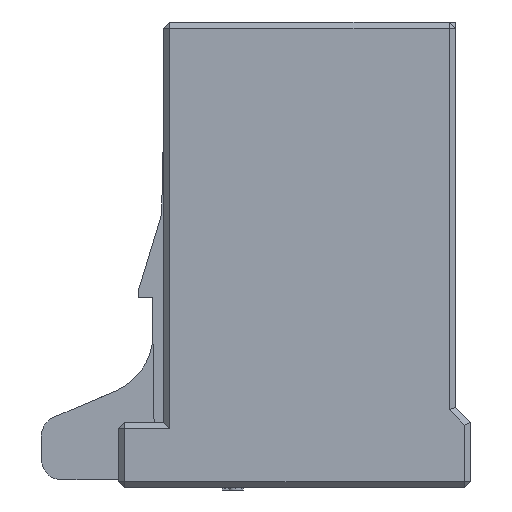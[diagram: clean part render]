
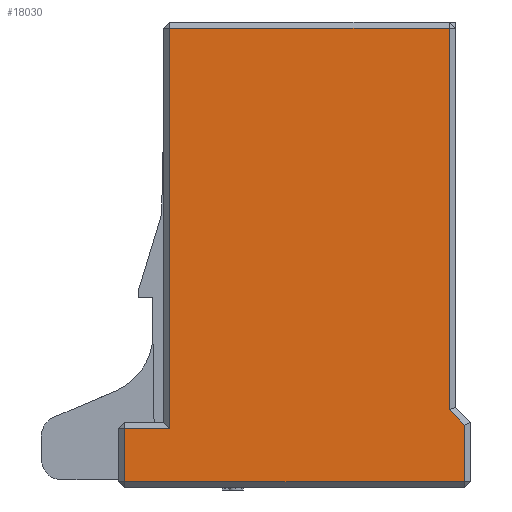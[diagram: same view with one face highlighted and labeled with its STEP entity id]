
A CAD part, left-side view. The second image highlights one B-rep face of the part: STEP entity #18030.
In plain terms, the highlighted planar face has unit normal (-1, 0, 0).
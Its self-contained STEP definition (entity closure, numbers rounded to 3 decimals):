
#49 = DIRECTION ( 'NONE',  ( 0., -1., 0. ) ) ;
#122 = CARTESIAN_POINT ( 'NONE',  ( -12.3, 13.23, 22.8 ) ) ;
#386 = CARTESIAN_POINT ( 'NONE',  ( -12.3, -2.95, 22.5 ) ) ;
#643 = DIRECTION ( 'NONE',  ( 0., 0., 1. ) ) ;
#752 = CARTESIAN_POINT ( 'NONE',  ( -12.3, 10.72, 22.5 ) ) ;
#793 = EDGE_CURVE ( 'NONE', #10009, #15207, #15567, .T. ) ;
#1613 = VECTOR ( 'NONE', #49, 1000. ) ;
#3637 = EDGE_CURVE ( 'NONE', #19935, #17852, #24794, .T. ) ;
#3777 = VECTOR ( 'NONE', #9879, 1000. ) ;
#4339 = DIRECTION ( 'NONE',  ( 0., 0., 1. ) ) ;
#5036 = CARTESIAN_POINT ( 'NONE',  ( -12.3, 10.72, 2.9 ) ) ;
#5137 = EDGE_CURVE ( 'NONE', #15207, #6318, #16424, .T. ) ;
#5686 = EDGE_CURVE ( 'NONE', #6318, #15354, #23993, .T. ) ;
#5941 = VECTOR ( 'NONE', #4339, 1000. ) ;
#5976 = CARTESIAN_POINT ( 'NONE',  ( -12.3, -2.95, 3.826 ) ) ;
#5992 = VECTOR ( 'NONE', #7149, 1000. ) ;
#6053 = DIRECTION ( 'NONE',  ( 0., 0., -1. ) ) ;
#6318 = VERTEX_POINT ( 'NONE', #5036 ) ;
#6359 = DIRECTION ( 'NONE',  ( 0., 0.707, 0.707 ) ) ;
#6379 = VECTOR ( 'NONE', #6053, 1000. ) ;
#6622 = DIRECTION ( 'NONE',  ( 1., 0., 0. ) ) ;
#6721 = EDGE_CURVE ( 'NONE', #9171, #10009, #19442, .T. ) ;
#6901 = CARTESIAN_POINT ( 'NONE',  ( -12.3, 12.93, 0.3 ) ) ;
#7149 = DIRECTION ( 'NONE',  ( 0., 1., 0. ) ) ;
#8639 = ORIENTED_EDGE ( 'NONE', *, *, #18956, .T. ) ;
#9171 = VERTEX_POINT ( 'NONE', #5976 ) ;
#9228 = LINE ( 'NONE', #26190, #9926 ) ;
#9879 = DIRECTION ( 'NONE',  ( 0., 1., 0. ) ) ;
#9926 = VECTOR ( 'NONE', #6359, 1000. ) ;
#10009 = VERTEX_POINT ( 'NONE', #386 ) ;
#10410 = CARTESIAN_POINT ( 'NONE',  ( -12.3, -3.7, 0.3 ) ) ;
#10726 = ORIENTED_EDGE ( 'NONE', *, *, #6721, .T. ) ;
#11260 = LINE ( 'NONE', #14916, #19234 ) ;
#11523 = ORIENTED_EDGE ( 'NONE', *, *, #5137, .T. ) ;
#12172 = CARTESIAN_POINT ( 'NONE',  ( -12.3, -3.7, 3.076 ) ) ;
#12558 = CARTESIAN_POINT ( 'NONE',  ( -12.3, 12.93, 2.9 ) ) ;
#13404 = PLANE ( 'NONE',  #26047 ) ;
#13585 = FACE_OUTER_BOUND ( 'NONE', #23137, .T. ) ;
#14908 = EDGE_CURVE ( 'NONE', #15354, #19935, #11260, .T. ) ;
#14916 = CARTESIAN_POINT ( 'NONE',  ( -12.3, 12.93, 22.8 ) ) ;
#15207 = VERTEX_POINT ( 'NONE', #752 ) ;
#15354 = VERTEX_POINT ( 'NONE', #12558 ) ;
#15377 = CARTESIAN_POINT ( 'NONE',  ( -12.3, -2.95, 22.8 ) ) ;
#15468 = ORIENTED_EDGE ( 'NONE', *, *, #3637, .T. ) ;
#15567 = LINE ( 'NONE', #27591, #3777 ) ;
#16424 = LINE ( 'NONE', #21309, #6379 ) ;
#17244 = DIRECTION ( 'NONE',  ( 0., 0., -1. ) ) ;
#17713 = VERTEX_POINT ( 'NONE', #12172 ) ;
#17852 = VERTEX_POINT ( 'NONE', #10410 ) ;
#18030 = ADVANCED_FACE ( 'NONE', ( #13585 ), #13404, .F. ) ;
#18111 = ORIENTED_EDGE ( 'NONE', *, *, #14908, .T. ) ;
#18956 = EDGE_CURVE ( 'NONE', #17852, #17713, #21791, .T. ) ;
#19234 = VECTOR ( 'NONE', #17244, 1000. ) ;
#19442 = LINE ( 'NONE', #15377, #5941 ) ;
#19935 = VERTEX_POINT ( 'NONE', #6901 ) ;
#20471 = CARTESIAN_POINT ( 'NONE',  ( -12.3, -3.7, 22.8 ) ) ;
#21309 = CARTESIAN_POINT ( 'NONE',  ( -12.3, 10.72, 22.8 ) ) ;
#21791 = LINE ( 'NONE', #20471, #28040 ) ;
#21888 = CARTESIAN_POINT ( 'NONE',  ( -12.3, 13.23, 0.3 ) ) ;
#22741 = EDGE_CURVE ( 'NONE', #17713, #9171, #9228, .T. ) ;
#23137 = EDGE_LOOP ( 'NONE', ( #11523, #26512, #18111, #15468, #8639, #28424, #10726, #26927 ) ) ;
#23993 = LINE ( 'NONE', #27147, #5992 ) ;
#24304 = DIRECTION ( 'NONE',  ( 0., 1., 0. ) ) ;
#24794 = LINE ( 'NONE', #21888, #1613 ) ;
#26047 = AXIS2_PLACEMENT_3D ( 'NONE', #122, #6622, #24304 ) ;
#26190 = CARTESIAN_POINT ( 'NONE',  ( -12.3, -3.038, 3.738 ) ) ;
#26512 = ORIENTED_EDGE ( 'NONE', *, *, #5686, .T. ) ;
#26927 = ORIENTED_EDGE ( 'NONE', *, *, #793, .T. ) ;
#27147 = CARTESIAN_POINT ( 'NONE',  ( -12.3, 13.23, 2.9 ) ) ;
#27591 = CARTESIAN_POINT ( 'NONE',  ( -12.3, 11.02, 22.5 ) ) ;
#28040 = VECTOR ( 'NONE', #643, 1000. ) ;
#28424 = ORIENTED_EDGE ( 'NONE', *, *, #22741, .T. ) ;
